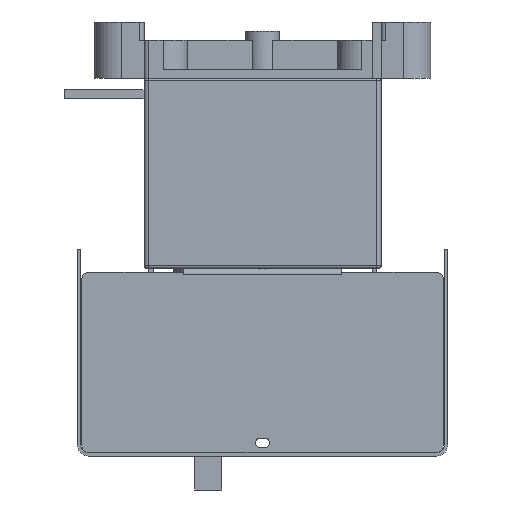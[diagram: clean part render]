
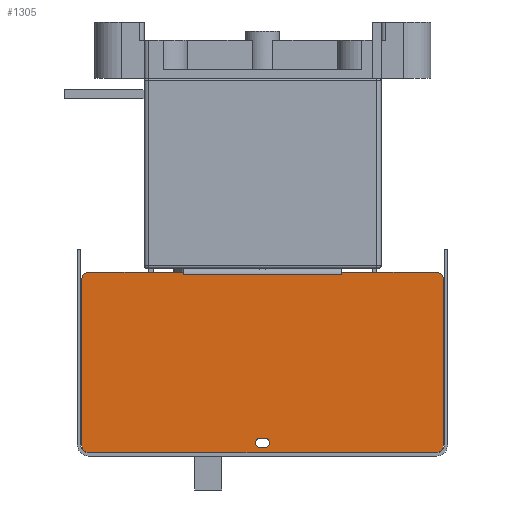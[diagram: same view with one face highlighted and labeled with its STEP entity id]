
A CAD part, left-side view. The second image highlights one B-rep face of the part: STEP entity #1305.
In plain terms, the highlighted planar face has unit normal (-1, 0, 0).
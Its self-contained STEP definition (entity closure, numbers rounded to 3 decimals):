
#170=FACE_BOUND('',#4029,.T.);
#171=FACE_BOUND('',#4030,.T.);
#1305=ADVANCED_FACE('',(#170,#171),#2113,.T.);
#2113=PLANE('',#20620);
#4029=EDGE_LOOP('',(#8687,#8688,#8689,#8690,#8691,#8692,#8693,#8694,#8695,
#8696,#8697,#8698,#8699,#8700));
#4030=EDGE_LOOP('',(#8701,#8702,#8703,#8704));
#4943=CIRCLE('',#20598,2.1);
#4945=CIRCLE('',#20602,2.1);
#4947=CIRCLE('',#20606,3.);
#4949=CIRCLE('',#20609,3.);
#4951=CIRCLE('',#20613,3.);
#4953=CIRCLE('',#20617,3.);
#8687=ORIENTED_EDGE('',*,*,#14419,.F.);
#8688=ORIENTED_EDGE('',*,*,#14420,.T.);
#8689=ORIENTED_EDGE('',*,*,#14421,.T.);
#8690=ORIENTED_EDGE('',*,*,#14422,.T.);
#8691=ORIENTED_EDGE('',*,*,#14423,.F.);
#8692=ORIENTED_EDGE('',*,*,#14411,.T.);
#8693=ORIENTED_EDGE('',*,*,#14416,.T.);
#8694=ORIENTED_EDGE('',*,*,#14399,.T.);
#8695=ORIENTED_EDGE('',*,*,#14402,.T.);
#8696=ORIENTED_EDGE('',*,*,#14377,.T.);
#8697=ORIENTED_EDGE('',*,*,#14405,.T.);
#8698=ORIENTED_EDGE('',*,*,#14408,.T.);
#8699=ORIENTED_EDGE('',*,*,#14410,.T.);
#8700=ORIENTED_EDGE('',*,*,#14385,.T.);
#8701=ORIENTED_EDGE('',*,*,#14389,.T.);
#8702=ORIENTED_EDGE('',*,*,#14393,.T.);
#8703=ORIENTED_EDGE('',*,*,#14396,.T.);
#8704=ORIENTED_EDGE('',*,*,#14418,.T.);
#11626=VERTEX_POINT('',#29141);
#11671=VERTEX_POINT('',#29238);
#11955=VERTEX_POINT('',#30329);
#11956=VERTEX_POINT('',#30331);
#11959=VERTEX_POINT('',#30338);
#11960=VERTEX_POINT('',#30340);
#11962=VERTEX_POINT('',#30346);
#11964=VERTEX_POINT('',#30352);
#11967=VERTEX_POINT('',#30359);
#11968=VERTEX_POINT('',#30361);
#11970=VERTEX_POINT('',#30370);
#11972=VERTEX_POINT('',#30376);
#11973=VERTEX_POINT('',#30383);
#11974=VERTEX_POINT('',#30384);
#11977=VERTEX_POINT('',#30398);
#11978=VERTEX_POINT('',#30400);
#11979=VERTEX_POINT('',#30402);
#11980=VERTEX_POINT('',#30404);
#14377=EDGE_CURVE('',#11626,#11671,#16745,.T.);
#14385=EDGE_CURVE('',#11956,#11955,#16752,.T.);
#14389=EDGE_CURVE('',#11960,#11959,#4943,.T.);
#14393=EDGE_CURVE('',#11959,#11962,#16758,.T.);
#14396=EDGE_CURVE('',#11962,#11964,#4945,.T.);
#14399=EDGE_CURVE('',#11968,#11967,#16762,.T.);
#14402=EDGE_CURVE('',#11967,#11626,#4947,.T.);
#14405=EDGE_CURVE('',#11671,#11970,#4949,.T.);
#14408=EDGE_CURVE('',#11970,#11972,#16767,.T.);
#14410=EDGE_CURVE('',#11972,#11956,#4951,.T.);
#14411=EDGE_CURVE('',#11973,#11974,#16768,.T.);
#14416=EDGE_CURVE('',#11974,#11968,#4953,.T.);
#14418=EDGE_CURVE('',#11964,#11960,#16773,.T.);
#14419=EDGE_CURVE('',#11977,#11955,#16774,.T.);
#14420=EDGE_CURVE('',#11977,#11978,#16775,.T.);
#14421=EDGE_CURVE('',#11978,#11979,#16776,.T.);
#14422=EDGE_CURVE('',#11979,#11980,#16777,.T.);
#14423=EDGE_CURVE('',#11973,#11980,#16778,.T.);
#16745=LINE('',#30312,#18809);
#16752=LINE('',#30330,#18816);
#16758=LINE('',#30347,#18822);
#16762=LINE('',#30360,#18826);
#16767=LINE('',#30377,#18831);
#16768=LINE('',#30382,#18832);
#16773=LINE('',#30395,#18837);
#16774=LINE('',#30397,#18838);
#16775=LINE('',#30399,#18839);
#16776=LINE('',#30401,#18840);
#16777=LINE('',#30403,#18841);
#16778=LINE('',#30405,#18842);
#18809=VECTOR('',#24657,1.);
#18816=VECTOR('',#24670,1.);
#18822=VECTOR('',#24684,1.);
#18826=VECTOR('',#24696,1.);
#18831=VECTOR('',#24715,1.);
#18832=VECTOR('',#24724,1.);
#18837=VECTOR('',#24737,1.);
#18838=VECTOR('',#24740,1.);
#18839=VECTOR('',#24741,1.);
#18840=VECTOR('',#24742,1.);
#18841=VECTOR('',#24743,1.);
#18842=VECTOR('',#24744,1.);
#20598=AXIS2_PLACEMENT_3D('',#30339,#24677,#24678);
#20602=AXIS2_PLACEMENT_3D('',#30353,#24690,#24691);
#20606=AXIS2_PLACEMENT_3D('',#30365,#24702,#24703);
#20609=AXIS2_PLACEMENT_3D('',#30371,#24709,#24710);
#20613=AXIS2_PLACEMENT_3D('',#30380,#24720,#24721);
#20617=AXIS2_PLACEMENT_3D('',#30392,#24732,#24733);
#20620=AXIS2_PLACEMENT_3D('',#30406,#24745,#24746);
#24657=DIRECTION('',(0.,-1.,0.));
#24670=DIRECTION('',(0.,1.,0.));
#24677=DIRECTION('',(1.,0.,0.));
#24678=DIRECTION('',(0.,1.,0.));
#24684=DIRECTION('',(0.,-1.,0.));
#24690=DIRECTION('',(1.,0.,0.));
#24691=DIRECTION('',(0.,1.,0.));
#24696=DIRECTION('',(0.,0.,-1.));
#24702=DIRECTION('',(-1.,0.,0.));
#24703=DIRECTION('',(0.,1.,0.));
#24709=DIRECTION('',(-1.,0.,0.));
#24710=DIRECTION('',(0.,1.,0.));
#24715=DIRECTION('',(0.,0.,1.));
#24720=DIRECTION('',(-1.,0.,0.));
#24721=DIRECTION('',(0.,1.,0.));
#24724=DIRECTION('',(0.,1.,0.));
#24732=DIRECTION('',(-1.,0.,0.));
#24733=DIRECTION('',(0.,1.,0.));
#24737=DIRECTION('',(0.,1.,0.));
#24740=DIRECTION('',(0.,0.,1.));
#24741=DIRECTION('',(0.,1.,0.));
#24742=DIRECTION('',(0.,1.,0.));
#24743=DIRECTION('',(0.,1.,0.));
#24744=DIRECTION('',(0.,0.,-1.));
#24745=DIRECTION('',(-1.,0.,0.));
#24746=DIRECTION('',(0.,-1.,0.));
#29141=CARTESIAN_POINT('',(-189.3,77.,-165.8));
#29238=CARTESIAN_POINT('',(-189.3,-77.,-165.8));
#30312=CARTESIAN_POINT('',(-189.3,77.,-165.8));
#30329=CARTESIAN_POINT('',(-189.3,-35.002,-85.8));
#30330=CARTESIAN_POINT('',(-189.3,-77.,-85.8));
#30331=CARTESIAN_POINT('',(-189.3,-77.,-85.8));
#30338=CARTESIAN_POINT('',(-189.3,1.,-159.3));
#30339=CARTESIAN_POINT('',(-189.3,1.,-161.4));
#30340=CARTESIAN_POINT('',(-189.3,1.,-163.5));
#30346=CARTESIAN_POINT('',(-189.3,-1.,-159.3));
#30347=CARTESIAN_POINT('',(-189.3,1.,-159.3));
#30352=CARTESIAN_POINT('',(-189.3,-1.,-163.5));
#30353=CARTESIAN_POINT('',(-189.3,-1.,-161.4));
#30359=CARTESIAN_POINT('',(-189.3,80.,-162.8));
#30360=CARTESIAN_POINT('',(-189.3,80.,-88.8));
#30361=CARTESIAN_POINT('',(-189.3,80.,-88.8));
#30365=CARTESIAN_POINT('',(-189.3,77.,-162.8));
#30370=CARTESIAN_POINT('',(-189.3,-80.,-162.8));
#30371=CARTESIAN_POINT('',(-189.3,-77.,-162.8));
#30376=CARTESIAN_POINT('',(-189.3,-80.,-88.8));
#30377=CARTESIAN_POINT('',(-189.3,-80.,-162.8));
#30380=CARTESIAN_POINT('',(-189.3,-77.,-88.8));
#30382=CARTESIAN_POINT('',(-189.3,-77.,-85.8));
#30383=CARTESIAN_POINT('',(-189.3,35.002,-85.8));
#30384=CARTESIAN_POINT('',(-189.3,77.,-85.8));
#30392=CARTESIAN_POINT('',(-189.3,77.,-88.8));
#30395=CARTESIAN_POINT('',(-189.3,-1.,-163.5));
#30397=CARTESIAN_POINT('',(-189.3,-35.002,-162.8));
#30398=CARTESIAN_POINT('',(-189.3,-35.002,-86.8));
#30399=CARTESIAN_POINT('',(-189.3,77.,-86.8));
#30400=CARTESIAN_POINT('',(-189.3,-35.,-86.8));
#30401=CARTESIAN_POINT('',(-189.3,50.5,-86.8));
#30402=CARTESIAN_POINT('',(-189.3,35.,-86.8));
#30403=CARTESIAN_POINT('',(-189.3,77.,-86.8));
#30404=CARTESIAN_POINT('',(-189.3,35.002,-86.8));
#30405=CARTESIAN_POINT('',(-189.3,35.002,-162.8));
#30406=CARTESIAN_POINT('',(-189.3,77.,-162.8));
